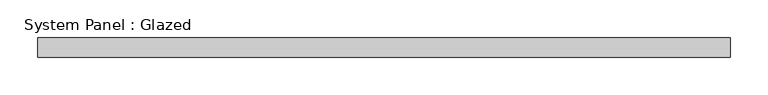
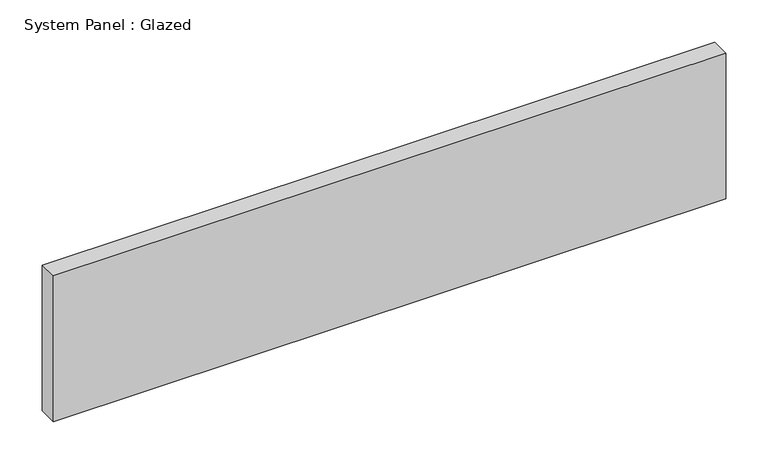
"""IFC4 building model written with IfcOpenShell, lengths in millimetres: plate geometry, System Panel : Glazed."""

from ifc_helpers import new_model, si_unit, origin, origin_with_axes, place, context, project, spatial, polyline, outline, extrude, source, transform, mapped, element, save


def system_panel_glazed_8dc8626f(model_context):
    return source(origin(), model_context, "Body", "SweptSolid", [
        extrude(outline(polyline([(457.2, -44.45), (-457.2, -44.45), (-457.2, -19.05), (457.2, -19.05), (457.2, -44.45)])), origin_with_axes(), (0.0, 0.0, 1.0), 209.55),
    ])


if __name__ == "__main__":
    model = new_model("IFC4")
    model_context = context("Model", 3, world=origin())
    ifc_project = project(units=[si_unit("LENGTHUNIT", "METRE", prefix="MILLI")], contexts=[model_context])
    site = spatial("IfcSite", under=ifc_project)
    building = spatial("IfcBuilding", under=site)
    placement = place(None, origin())
    system_panel_glazed_shape = system_panel_glazed_8dc8626f(model_context)
    element("IfcPlate", 1, ObjectType="System Panel : Glazed", at=placement, inside=building, context=model_context, shape_type="MappedRepresentation", body=[
        mapped(system_panel_glazed_shape, transform((0.0, 0.0, 0.0), x_axis=(1.0, 0.0, 0.0), y_axis=(0.0, 1.0, 0.0), z_axis=(0.0, 0.0, 1.0))),
    ])
    save(model, "model.ifc")
